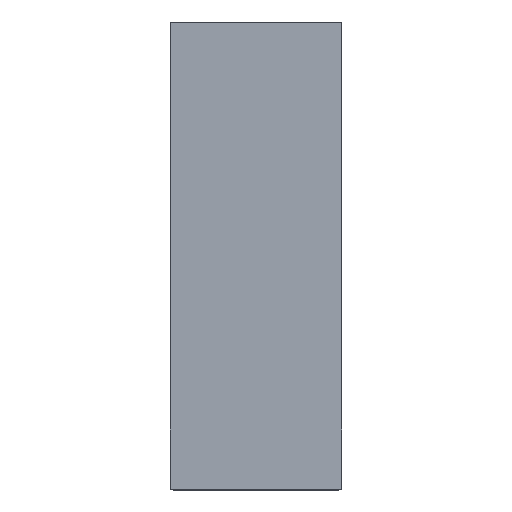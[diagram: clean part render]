
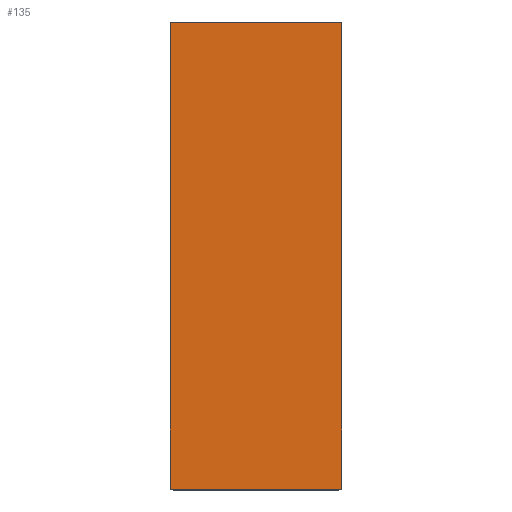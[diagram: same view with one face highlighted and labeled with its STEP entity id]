
A CAD part, top view. The second image highlights one B-rep face of the part: STEP entity #135.
In plain terms, the highlighted planar face has unit normal (0, 0, 1) as drawn and (0, 0, -1) by its records, which use the part's own axes.
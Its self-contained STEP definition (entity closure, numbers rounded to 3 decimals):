
#135 = ADVANCED_FACE( '', ( #273 ), #274, .F. );
#273 = FACE_OUTER_BOUND( '', #413, .T. );
#274 = PLANE( '', #414 );
#413 = EDGE_LOOP( '', ( #692, #693, #694, #695, #696, #697, #698, #699, #700, #701, #702, #703 ) );
#414 = AXIS2_PLACEMENT_3D( '', #704, #705, #706 );
#692 = ORIENTED_EDGE( '', *, *, #940, .T. );
#693 = ORIENTED_EDGE( '', *, *, #937, .F. );
#694 = ORIENTED_EDGE( '', *, *, #999, .T. );
#695 = ORIENTED_EDGE( '', *, *, #1000, .T. );
#696 = ORIENTED_EDGE( '', *, *, #947, .T. );
#697 = ORIENTED_EDGE( '', *, *, #1001, .F. );
#698 = ORIENTED_EDGE( '', *, *, #995, .T. );
#699 = ORIENTED_EDGE( '', *, *, #906, .T. );
#700 = ORIENTED_EDGE( '', *, *, #987, .F. );
#701 = ORIENTED_EDGE( '', *, *, #977, .F. );
#702 = ORIENTED_EDGE( '', *, *, #881, .T. );
#703 = ORIENTED_EDGE( '', *, *, #1002, .T. );
#704 = CARTESIAN_POINT( '', ( 347., 947., 0. ) );
#705 = DIRECTION( '', ( 0., 0., 1. ) );
#706 = DIRECTION( '', ( 1., 0., 0. ) );
#881 = EDGE_CURVE( '', #1043, #1044, #1045, .T. );
#906 = EDGE_CURVE( '', #1090, #1091, #1092, .T. );
#937 = EDGE_CURVE( '', #1143, #1135, #1145, .T. );
#940 = EDGE_CURVE( '', #1148, #1135, #1149, .T. );
#947 = EDGE_CURVE( '', #1155, #1158, #1160, .T. );
#977 = EDGE_CURVE( '', #1043, #1204, #1205, .T. );
#987 = EDGE_CURVE( '', #1204, #1091, #1219, .T. );
#995 = EDGE_CURVE( '', #1229, #1090, #1230, .T. );
#999 = EDGE_CURVE( '', #1143, #1234, #1235, .T. );
#1000 = EDGE_CURVE( '', #1234, #1155, #1236, .T. );
#1001 = EDGE_CURVE( '', #1229, #1158, #1237, .T. );
#1002 = EDGE_CURVE( '', #1044, #1148, #1238, .T. );
#1043 = VERTEX_POINT( '', #1285 );
#1044 = VERTEX_POINT( '', #1286 );
#1045 = LINE( '', #1287, #1288 );
#1090 = VERTEX_POINT( '', #1354 );
#1091 = VERTEX_POINT( '', #1355 );
#1092 = LINE( '', #1356, #1357 );
#1135 = VERTEX_POINT( '', #1421 );
#1143 = VERTEX_POINT( '', #1433 );
#1145 = LINE( '', #1436, #1437 );
#1148 = VERTEX_POINT( '', #1441 );
#1149 = LINE( '', #1442, #1443 );
#1155 = VERTEX_POINT( '', #1451 );
#1158 = VERTEX_POINT( '', #1456 );
#1160 = LINE( '', #1459, #1460 );
#1204 = VERTEX_POINT( '', #1525 );
#1205 = LINE( '', #1526, #1527 );
#1219 = LINE( '', #1548, #1549 );
#1229 = VERTEX_POINT( '', #1563 );
#1230 = LINE( '', #1564, #1565 );
#1234 = VERTEX_POINT( '', #1571 );
#1235 = LINE( '', #1572, #1573 );
#1236 = LINE( '', #1574, #1575 );
#1237 = LINE( '', #1576, #1577 );
#1238 = LINE( '', #1578, #1579 );
#1285 = CARTESIAN_POINT( '', ( 335., 943., 0. ) );
#1286 = CARTESIAN_POINT( '', ( 347., 943., 0. ) );
#1287 = CARTESIAN_POINT( '', ( 347., 943., 0. ) );
#1288 = VECTOR( '', #1646, 1000. );
#1354 = CARTESIAN_POINT( '', ( -335., 943., 0. ) );
#1355 = CARTESIAN_POINT( '', ( -335., 947., 0. ) );
#1356 = CARTESIAN_POINT( '', ( -335., -947., 0. ) );
#1357 = VECTOR( '', #1668, 1000. );
#1421 = CARTESIAN_POINT( '', ( 335., -943., 0. ) );
#1433 = CARTESIAN_POINT( '', ( 335., -947., 0. ) );
#1436 = CARTESIAN_POINT( '', ( 335., -947., 0. ) );
#1437 = VECTOR( '', #1695, 1000. );
#1441 = CARTESIAN_POINT( '', ( 347., -943., 0. ) );
#1442 = CARTESIAN_POINT( '', ( 347., -943., 0. ) );
#1443 = VECTOR( '', #1697, 1000. );
#1451 = CARTESIAN_POINT( '', ( -335., -943., 0. ) );
#1456 = CARTESIAN_POINT( '', ( -347., -943., 0. ) );
#1459 = CARTESIAN_POINT( '', ( 347., -943., 0. ) );
#1460 = VECTOR( '', #1703, 1000. );
#1525 = CARTESIAN_POINT( '', ( 335., 947., 0. ) );
#1526 = CARTESIAN_POINT( '', ( 335., -947., 0. ) );
#1527 = VECTOR( '', #1725, 1000. );
#1548 = CARTESIAN_POINT( '', ( 335., 947., 0. ) );
#1549 = VECTOR( '', #1733, 1000. );
#1563 = CARTESIAN_POINT( '', ( -347., 943., 0. ) );
#1564 = CARTESIAN_POINT( '', ( 347., 943., 0. ) );
#1565 = VECTOR( '', #1738, 1000. );
#1571 = CARTESIAN_POINT( '', ( -335., -947., 0. ) );
#1572 = CARTESIAN_POINT( '', ( 335., -947., 0. ) );
#1573 = VECTOR( '', #1741, 1000. );
#1574 = CARTESIAN_POINT( '', ( -335., -947., 0. ) );
#1575 = VECTOR( '', #1742, 1000. );
#1576 = CARTESIAN_POINT( '', ( -347., 947., 0. ) );
#1577 = VECTOR( '', #1743, 1000. );
#1578 = CARTESIAN_POINT( '', ( 347., 947., 0. ) );
#1579 = VECTOR( '', #1744, 1000. );
#1646 = DIRECTION( '', ( 1., 0., 0. ) );
#1668 = DIRECTION( '', ( 0., 1., 0. ) );
#1695 = DIRECTION( '', ( 0., 1., 0. ) );
#1697 = DIRECTION( '', ( -1., 0., 0. ) );
#1703 = DIRECTION( '', ( -1., 0., 0. ) );
#1725 = DIRECTION( '', ( 0., 1., 0. ) );
#1733 = DIRECTION( '', ( -1., 0., 0. ) );
#1738 = DIRECTION( '', ( 1., 0., 0. ) );
#1741 = DIRECTION( '', ( -1., 0., 0. ) );
#1742 = DIRECTION( '', ( 0., 1., 0. ) );
#1743 = DIRECTION( '', ( 0., -1., 0. ) );
#1744 = DIRECTION( '', ( 0., -1., 0. ) );
